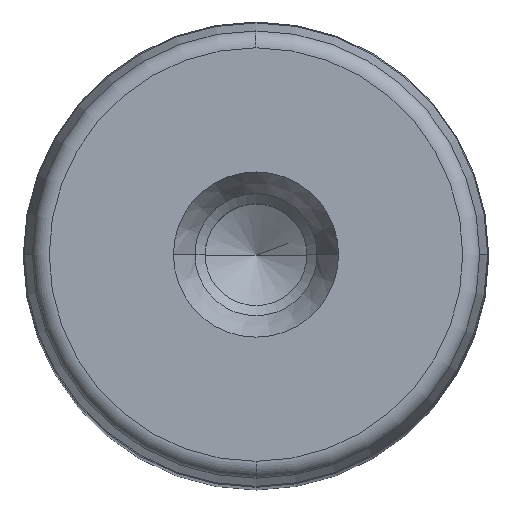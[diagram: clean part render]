
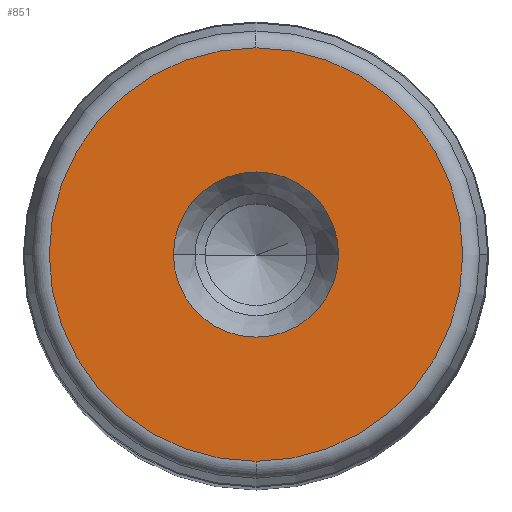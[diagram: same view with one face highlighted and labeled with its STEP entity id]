
A CAD part, top view. The second image highlights one B-rep face of the part: STEP entity #851.
In plain terms, the highlighted planar face has unit normal (0, 0, 1) as drawn and (0, 1, 0) by its records, which use the part's own axes.
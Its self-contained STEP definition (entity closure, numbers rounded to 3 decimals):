
#281=CARTESIAN_POINT('',(14.2,280.0,0.0));
#282=VERTEX_POINT('',#281);
#289=CARTESIAN_POINT('',(-14.2,280.0,0.));
#290=VERTEX_POINT('',#289);
#291=CARTESIAN_POINT('',(0.0,280.0,0.0));
#292=DIRECTION('',(0.0,1.0,0.0));
#293=DIRECTION('',(1.0,0.0,0.0));
#294=AXIS2_PLACEMENT_3D('',#291,#292,#293);
#295=CIRCLE('',#294,14.2);
#296=EDGE_CURVE('',#282,#290,#295,.T.);
#313=CARTESIAN_POINT('',(0.0,280.0,35.554));
#314=VERTEX_POINT('',#313);
#324=CARTESIAN_POINT('',(0.,280.0,-35.554));
#325=VERTEX_POINT('',#324);
#326=CARTESIAN_POINT('',(0.0,280.0,0.0));
#327=DIRECTION('',(0.0,1.0,0.0));
#328=DIRECTION('',(1.0,0.0,0.0));
#329=AXIS2_PLACEMENT_3D('',#326,#327,#328);
#330=CIRCLE('',#329,35.554);
#331=EDGE_CURVE('',#325,#314,#330,.T.);
#812=CARTESIAN_POINT('',(35.554,280.0,0.0));
#813=VERTEX_POINT('',#812);
#814=CARTESIAN_POINT('',(0.0,280.0,0.0));
#815=DIRECTION('',(0.0,1.0,0.0));
#816=DIRECTION('',(1.0,0.0,0.0));
#817=AXIS2_PLACEMENT_3D('',#814,#815,#816);
#818=CIRCLE('',#817,35.554);
#819=EDGE_CURVE('',#813,#325,#818,.T.);
#821=CARTESIAN_POINT('',(0.0,280.0,0.0));
#822=DIRECTION('',(0.0,1.0,0.0));
#823=DIRECTION('',(1.0,0.0,0.0));
#824=AXIS2_PLACEMENT_3D('',#821,#822,#823);
#825=CIRCLE('',#824,35.554);
#826=EDGE_CURVE('',#314,#813,#825,.T.);
#831=CARTESIAN_POINT('',(-39.11,280.0,-39.11));
#832=DIRECTION('',(0.0,1.0,0.0));
#833=DIRECTION('',(0.0,0.0,1.0));
#834=AXIS2_PLACEMENT_3D('',#831,#832,#833);
#835=PLANE('',#834);
#836=ORIENTED_EDGE('',*,*,#819,.T.);
#837=ORIENTED_EDGE('',*,*,#331,.T.);
#838=ORIENTED_EDGE('',*,*,#826,.T.);
#839=EDGE_LOOP('',(#836,#837,#838));
#840=FACE_OUTER_BOUND('',#839,.T.);
#841=ORIENTED_EDGE('',*,*,#296,.F.);
#842=CARTESIAN_POINT('',(0.0,280.0,0.0));
#843=DIRECTION('',(0.0,1.0,0.0));
#844=DIRECTION('',(1.0,0.0,0.0));
#845=AXIS2_PLACEMENT_3D('',#842,#843,#844);
#846=CIRCLE('',#845,14.2);
#847=EDGE_CURVE('',#290,#282,#846,.T.);
#848=ORIENTED_EDGE('',*,*,#847,.F.);
#849=EDGE_LOOP('',(#841,#848));
#850=FACE_BOUND('',#849,.T.);
#851=ADVANCED_FACE('',(#840,#850),#835,.T.);
